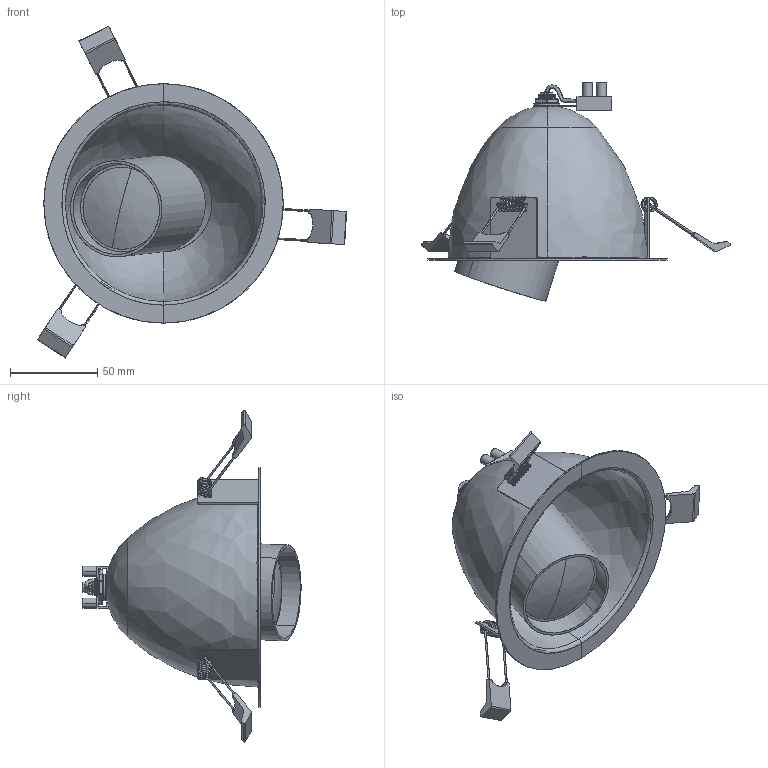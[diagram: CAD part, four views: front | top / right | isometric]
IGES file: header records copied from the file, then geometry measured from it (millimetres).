
Start section: SolidWorks IGES file using analytic representation for surfaces
Global section: file name: E:\3D lampy\Dot\Dot_9378.IGS; native system: SolidWorks 2017; preprocessor: SolidWorks 2017; author: Asia; date: 180305.110512; units: millimetre
Bounding box: 176.99 x 124.79 x 189.98 mm (x, y, z)
Surface area: 134508.1 mm2 (no closed solid volume)
Topology: 0 solids, 0 shells, 697 faces, 20870 edges, 24393 vertices
Faces by surface type: bspline 390, revolution 307
